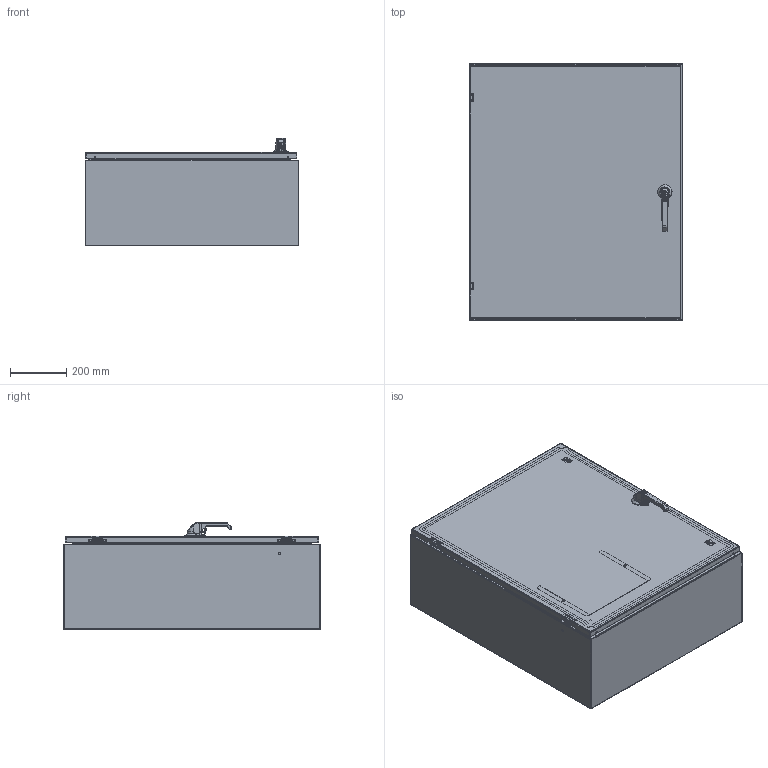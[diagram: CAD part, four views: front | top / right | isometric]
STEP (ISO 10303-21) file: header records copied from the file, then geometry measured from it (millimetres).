
FILE_DESCRIPTION((''),'2;1');
FILE_NAME('MODEL-032_ASM','2022-12-21T09:13:58',('Tony.Gonzales'),('SAGINAW CONTROL & ENGINEERING'),'CREO PARAMETRIC BY PTC INC, 2021284','CREO PARAMETRIC BY PTC INC, 2021284','');
FILE_SCHEMA(('AUTOMOTIVE_DESIGN { 1 0 10303 214 1 1 1 1 }'));
Length unit declared in the file: inch
Products named in the file (49): MODEL-032-BDY; MODEL-032-TP; MODEL-032-BTM; MODEL-032-DR; 100837; 100882; 111267; 100955_HANDLE; 100955_HANDLE_INSERT; 100955_SHAFT_CAM; 100955_ADAPTER_CAM; 100955_NUT_CAM; 100955_BASE; 100955_O-RING; 100955_WASHER_SEALING; 100955_NUT_MOUNTING_LARGE; 100955_NUT_MOUNTING_SMALL; 100955_SCREW_SMALL; 100955_INSERT; 100955_PADLOCK_CATCH; 100955_STOP_CAM; 100955_ASM; 128142; 100030; 128142_ASM; MODEL-032-ROD-UPR; 128146; 128145; 128144; 102482; MODEL-032-ROD-UPR_ASM; 128143; 112504; MODEL-032-ROD-LWR; MODEL-032-ROD-LWR_ASM; MODEL-032-POUR-GSKT; 126391; 126391_ASM; 126393; 102483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
Assembly tree (85 placements, depth 4):
  MODEL-032_ASM
    MODEL-032-BDY
    MODEL-032-TP
    MODEL-032-BTM
    MODEL-032-DOOR-ASSY_ASM
      MODEL-032-DR
      100837  x5
      100882  x4
      111267
      100955_ASM
        100955_HANDLE
        100955_HANDLE_INSERT
        100955_SHAFT_CAM
        100955_ADAPTER_CAM
        100955_NUT_CAM
        100955_BASE
        100955_O-RING
        100955_WASHER_SEALING
        100955_NUT_MOUNTING_LARGE
        100955_NUT_MOUNTING_SMALL
        100955_SCREW_SMALL
        100955_INSERT
        100955_PADLOCK_CATCH
        100955_STOP_CAM
      128142_ASM
        128142
        100030  x2
      MODEL-032-ROD-UPR_ASM
        MODEL-032-ROD-UPR
        128146
        128145
        128144
        102482  x2
      128143  x2
      112504  x2
      MODEL-032-ROD-LWR_ASM
        MODEL-032-ROD-LWR
        128146
        128145
        128144
        102482  x2
      MODEL-032-POUR-GSKT
      126391_ASM  x2
        126391
      126393  x2
      102483  x6
      101376  x2
      101226  x2
      102140  x2
    100837
    101653  x6
    SUBPANEL-SUBASSEMBLY_ASM
      SUBPANEL
      100904  x6
Bounding box: 762 x 914.4 x 382.23 mm (x, y, z)
Volume: 7801775.3 mm3; surface area: 6976493.7 mm2
Topology: 80 solids, 80 shells, 6423 faces, 16359 edges, 10104 vertices
Faces by surface type: plane 2300, cylinder 1703, bspline 1133, cone 538, torus 525, sphere 224
Entity records: 209134 total; most frequent: CARTESIAN_POINT 72887, ORIENTED_EDGE 20992, DIRECTION 19158, PRESENTATION_STYLE_ASSIGNMENT 10655, STYLED_ITEM 10538, CURVE_STYLE 10496, EDGE_CURVE 10496, AXIS2_PLACEMENT_3D 7163
